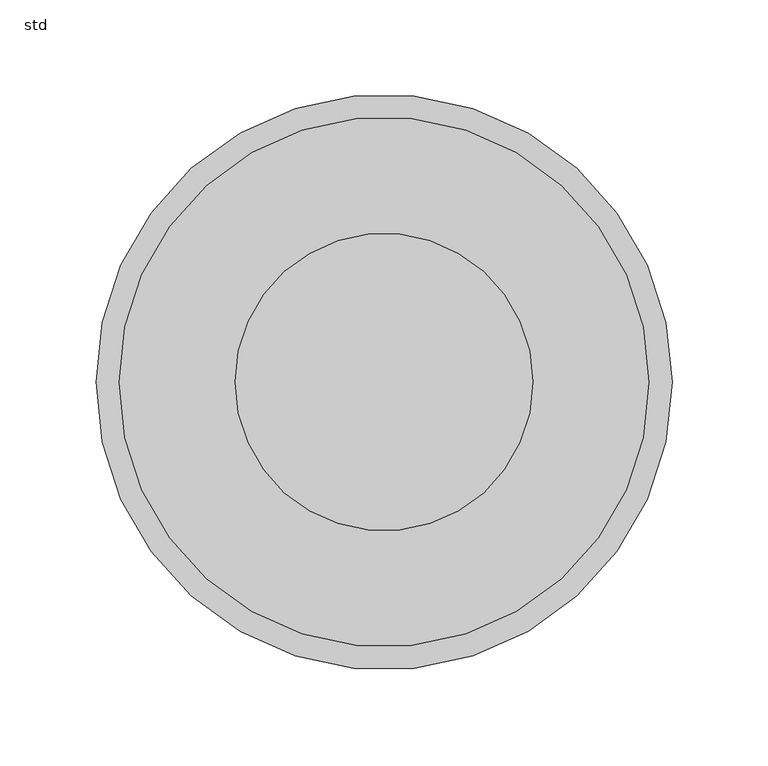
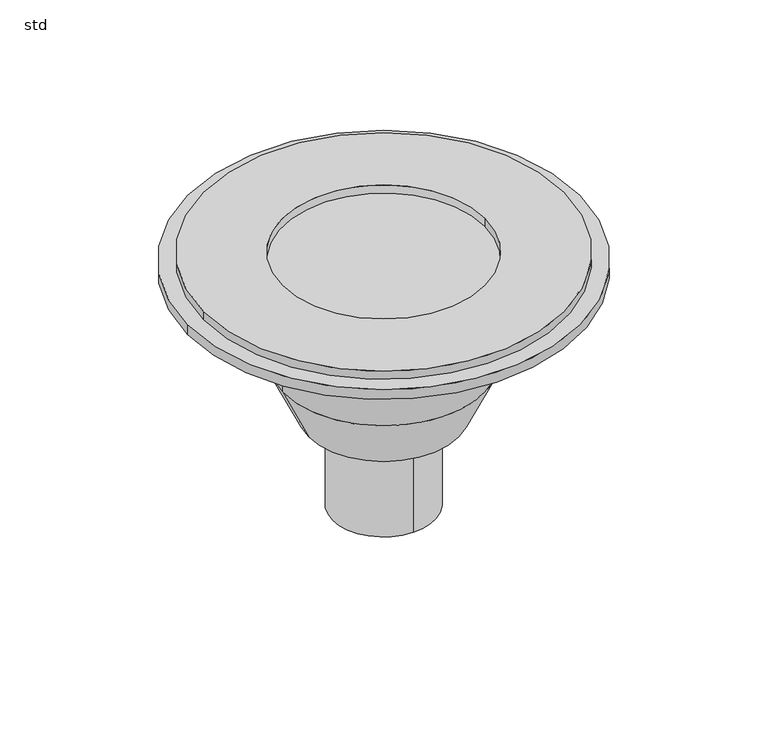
"""IFC4 building model written with IfcOpenShell, lengths in millimetres: sanitary terminal geometry, ZZZ_do_not_use_PF_CI_UN_gully body_ACO : std."""

from ifc_helpers import new_model, si_unit, point, frame, origin, origin_with_axes, origin_2d, place, context, project, spatial, polyline, circle_curve, trimmed, segment, composite_curve, outline, extrude, source, transform, mapped, element, save
from ifc_brep_helpers import plane_surface, cylinder_surface, revolved_surface, advanced_brep


def std_088cccaa(model_context):
    return source(origin(), model_context, "Body", "SolidModel", [
        extrude(outline(composite_curve([segment(trimmed(circle_curve(origin_2d(), 138.0), [point((-138.0, 0.0))], [point((138.0, 0.0))], False, "CARTESIAN"), True, "CONTINUOUS"), segment(trimmed(circle_curve(origin_2d(), 138.0), [point((138.0, 0.0))], [point((-138.0, 0.0))], False, "CARTESIAN"), True, "CONTINUOUS")], self_intersect=False), holes=[composite_curve([segment(trimmed(circle_curve(origin_2d(), 77.5), [point((-77.5, 0.0))], [point((77.5, 0.0))], True, "CARTESIAN"), True, "CONTINUOUS"), segment(trimmed(circle_curve(origin_2d(), 77.5), [point((77.5, 0.0))], [point((-77.5, 0.0))], True, "CARTESIAN"), True, "CONTINUOUS")], self_intersect=False)]), origin_with_axes(), (0.0, 0.0, 1.0), 6.5),
        advanced_brep(
        [(57.4487707, 0.0, -123.0), (-57.4487707, 0.0, -123.0), (-77.5, 0.0, -80.0), (77.5, 0.0, -80.0), (39.0, 0.0, -123.0), (0.0, 39.0, -123.0), (-39.0, 0.0, -123.0), (0.0, -39.0, -123.0), (-77.5, 0.0, -8.0), (77.5, 0.0, -8.0), (0.0, -39.0, -197.0), (0.0, 39.0, -197.0), (-150.0, 0.0, -8.0), (150.0, 0.0, -8.0), (-150.0, 0.0, 0.0), (150.0, 0.0, 0.0)],
        [
            (0, 1, circle_curve(frame((0.0, 0.0, -123.0), z_axis=(0.0, 0.0, 1.0), x_axis=(-1.0, 0.0, 0.0)), 57.4487707)),
            (1, 2),
            (2, 3, circle_curve(frame((0.0, 0.0, -80.0), z_axis=(0.0, 0.0, -1.0), x_axis=(-1.0, 0.0, 0.0)), 77.5)),
            (3, 0),
            (1, 0, circle_curve(frame((0.0, 0.0, -123.0), z_axis=(0.0, 0.0, 1.0), x_axis=(-1.0, 0.0, 0.0)), 57.4487707)),
            (3, 2, circle_curve(frame((0.0, 0.0, -80.0), z_axis=(0.0, 0.0, -1.0), x_axis=(-1.0, 0.0, 0.0)), 77.5)),
            (0, 4),
            (4, 5, circle_curve(frame((0.0, 0.0, -123.0), z_axis=(0.0, 0.0, 1.0), x_axis=(0.0, 1.0, 0.0)), 39.0)),
            (5, 6, circle_curve(frame((0.0, 0.0, -123.0), z_axis=(0.0, 0.0, 1.0), x_axis=(0.0, 1.0, 0.0)), 39.0)),
            (6, 1),
            (6, 7, circle_curve(frame((0.0, 0.0, -123.0), z_axis=(0.0, 0.0, 1.0), x_axis=(0.0, 1.0, 0.0)), 39.0)),
            (7, 4, circle_curve(frame((0.0, 0.0, -123.0), z_axis=(0.0, 0.0, 1.0), x_axis=(0.0, 1.0, 0.0)), 39.0)),
            (8, 2),
            (3, 9),
            (9, 8, circle_curve(frame((0.0, 0.0, -8.0), z_axis=(0.0, 0.0, -1.0), x_axis=(1.0, 0.0, 0.0)), 77.5)),
            (8, 9, circle_curve(frame((0.0, 0.0, -8.0), z_axis=(0.0, 0.0, -1.0), x_axis=(1.0, 0.0, 0.0)), 77.5)),
            (10, 11, circle_curve(frame((0.0, 0.0, -197.0), z_axis=(0.0, 0.0, -1.0), x_axis=(0.0, 1.0, 0.0)), 39.0)),
            (11, 10, circle_curve(frame((0.0, 0.0, -197.0), z_axis=(0.0, 0.0, -1.0), x_axis=(0.0, 1.0, 0.0)), 39.0)),
            (10, 7),
            (5, 11),
            (12, 13, circle_curve(frame((0.0, 0.0, -8.0), z_axis=(0.0, 0.0, -1.0), x_axis=(1.0, 0.0, 0.0)), 150.0)),
            (13, 12, circle_curve(frame((0.0, 0.0, -8.0), z_axis=(0.0, 0.0, -1.0), x_axis=(1.0, 0.0, 0.0)), 150.0)),
            (14, 15, circle_curve(origin_with_axes(), 150.0)),
            (15, 14, circle_curve(origin_with_axes(), 150.0)),
            (13, 15),
            (14, 12),
        ],
        [
            revolved_surface(polyline([(-77.5, 0.0, -80.0), (-57.4487707, 0.0, -123.0)]), (0.0, 0.0, -77.7894115), (0.0, 0.0, -1.0)),
            plane_surface(frame((0.0, 0.0, -123.0), z_axis=(0.0, 0.0, -1.0), x_axis=(-1.0, 0.0, 0.0))),
            cylinder_surface(frame((0.0, 0.0, -80.0), z_axis=(0.0, 0.0, 1.0), x_axis=(1.0, 0.0, 0.0)), 77.5),
            plane_surface(frame((0.0, 39.0, -197.0), z_axis=(0.0, 0.0, -1.0), x_axis=(1.0, 0.0, 0.0))),
            cylinder_surface(frame((0.0, 0.0, -123.0), z_axis=(0.0, 0.0, -1.0), x_axis=(0.0, 1.0, 0.0)), 39.0),
            plane_surface(frame((150.0, 0.0, -8.0), z_axis=(0.0, 0.0, -1.0), x_axis=(0.0, -1.0, 0.0))),
            plane_surface(frame((150.0, 0.0, 0.0), z_axis=(0.0, 0.0, 1.0), x_axis=(0.0, 1.0, 0.0))),
            cylinder_surface(frame((0.0, 0.0, -8.0), z_axis=(0.0, 0.0, 1.0), x_axis=(1.0, 0.0, 0.0)), 150.0),
        ],
        [
            (0, [[1, 2, 3, 4]]),
            (0, [[-2, 5, -4, 6]]),
            (1, [[-1, 7, 8, 9, 10]]),
            (1, [[-5, -10, 11, 12, -7]]),
            (2, [[13, -6, 14, 15]]),
            (2, [[-13, 16, -14, -3]]),
            (3, [[17, 18]]),
            (4, [[-17, 19, -11, -9, 20]]),
            (4, [[-18, -20, -8, -12, -19]]),
            (5, [[21, 22], [-15, -16]]),
            (6, [[23, 24]]),
            (7, [[-22, 25, -23, 26]]),
            (7, [[-21, -26, -24, -25]]),
        ],
    ),
    ])


if __name__ == "__main__":
    model = new_model("IFC4")
    model_context = context("Model", 3, world=origin())
    ifc_project = project(units=[si_unit("LENGTHUNIT", "METRE", prefix="MILLI")], contexts=[model_context])
    site = spatial("IfcSite", under=ifc_project)
    building = spatial("IfcBuilding", under=site)
    placement = place(None, origin())
    std_shape = std_088cccaa(model_context)
    element("IfcSanitaryTerminal", 1, ObjectType="ZZZ_do_not_use_PF_CI_UN_gully body_ACO : std", at=placement, inside=building, context=model_context, shape_type="MappedRepresentation", body=[
        mapped(std_shape, transform((0.0, 0.0, 0.0), x_axis=(1.0, 0.0, 0.0), y_axis=(0.0, 1.0, 0.0), z_axis=(0.0, 0.0, 1.0))),
    ])
    save(model, "model.ifc")
